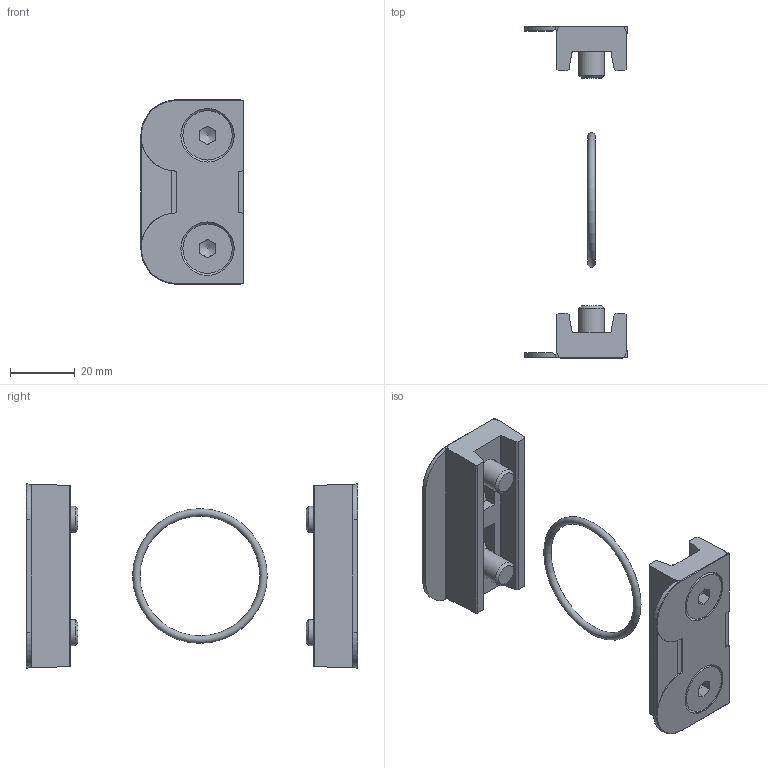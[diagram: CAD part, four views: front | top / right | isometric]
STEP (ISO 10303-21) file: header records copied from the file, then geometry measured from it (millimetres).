
FILE_DESCRIPTION((''),'2;1');
FILE_NAME('K:\ZEICHNG\webgrafik.intern\Air-Techniques Befestigungen und Behälter\step\KP.55 Z.stp','2013-06-21T09:41:12',('RJanz'),(''),'Autodesk Inventor 2013','Autodesk Inventor 2013','');
FILE_SCHEMA(('CONFIG_CONTROL_DESIGN'));
Length unit declared in the file: millimetre
Products named in the file (1): Bauteil1
Bounding box: 31.6 x 102.5 x 56.89 mm (x, y, z)
Volume: 26862.4 mm3; surface area: 15370.6 mm2
Topology: 3 solids, 3 shells, 163 faces, 432 edges, 281 vertices
Faces by surface type: plane 102, cylinder 36, cone 24, torus 1
Full cylindrical faces by diameter (mm): 8 x4, 15.24 x4, 16.5 x4
Entity records: 4926 total; most frequent: CARTESIAN_POINT 937, ORIENTED_EDGE 784, DIRECTION 770, EDGE_CURVE 392, AXIS2_PLACEMENT_3D 270, VERTEX_POINT 269, VECTOR 230, LINE 230
